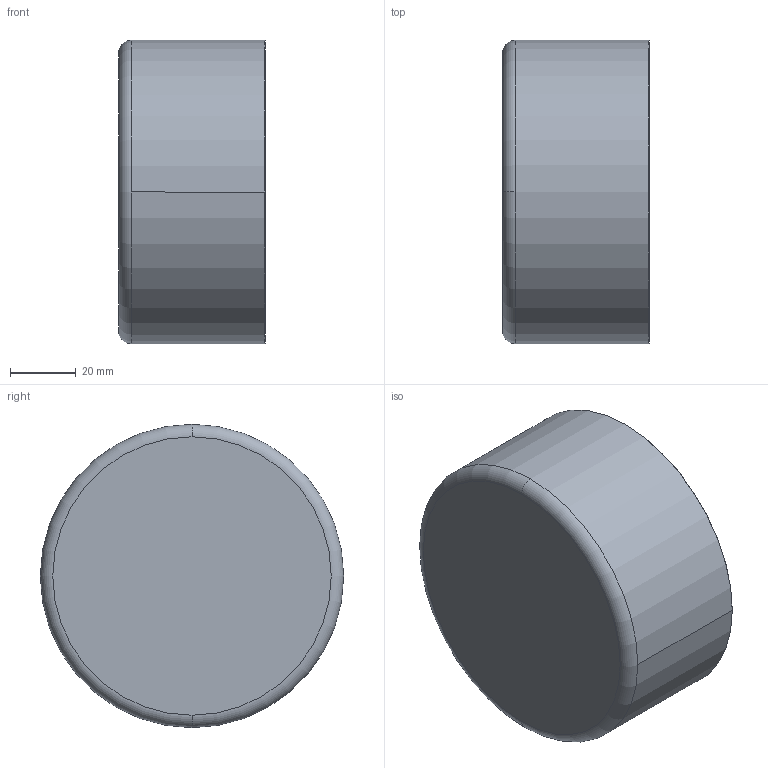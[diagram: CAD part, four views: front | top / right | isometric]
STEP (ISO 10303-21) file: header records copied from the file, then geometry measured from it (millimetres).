
FILE_DESCRIPTION((''),'2;1');
FILE_NAME('C:\sanha_work\5130\f\530189.stp','2005-10-21T18:20:05',('Kris'),(''),'Autodesk Inventor 8','Autodesk Inventor 8','');
FILE_SCHEMA(('AUTOMOTIVE_DESIGN { 1 0 10303 214 1 1 1 1 }'));
Length unit declared in the file: millimetre
Products named in the file (1): 530189
Bounding box: 44.8 x 92.6 x 92.6 mm (x, y, z)
Volume: 33542.4 mm3; surface area: 37735.4 mm2
Topology: 1 solids, 1 shells, 15 faces, 34 edges, 22 vertices
Faces by surface type: torus 4, cylinder 4, cone 4, plane 3
Entity records: 461 total; most frequent: DIRECTION 92, CARTESIAN_POINT 72, ORIENTED_EDGE 68, AXIS2_PLACEMENT_3D 42, EDGE_CURVE 34, CIRCLE 26, VERTEX_POINT 22, EDGE_LOOP 16
